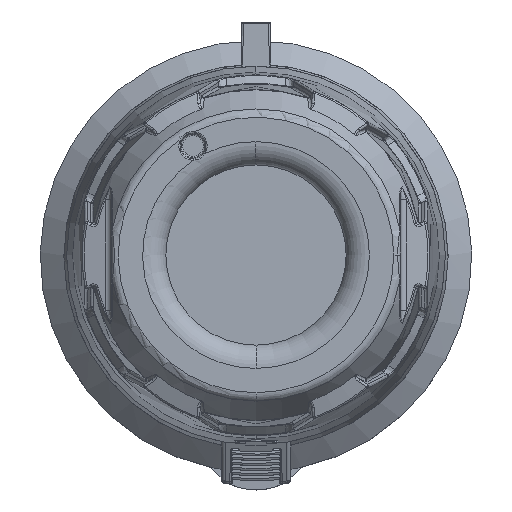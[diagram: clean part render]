
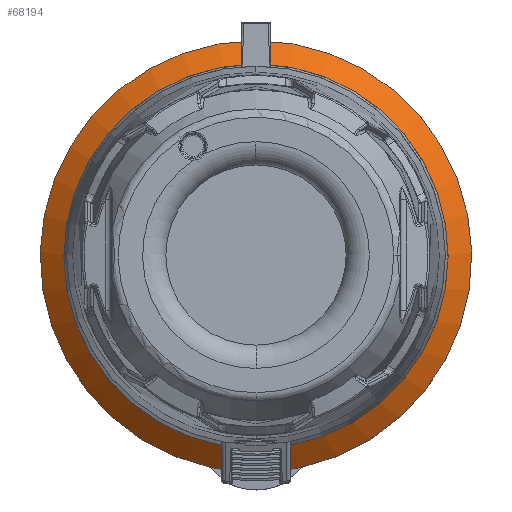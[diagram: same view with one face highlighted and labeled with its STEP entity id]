
A CAD part, top view. The second image highlights one B-rep face of the part: STEP entity #68194.
In plain terms, the highlighted conical face has half-angle 50 degrees and reference radius 42.25 mm.
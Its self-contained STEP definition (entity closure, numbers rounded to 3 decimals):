
#15839=CARTESIAN_POINT('',(0.,0.,15.312));
#15840=DIRECTION('',(0.,0.,1.));
#15841=DIRECTION('',(0.181,-0.984,0.));
#15842=AXIS2_PLACEMENT_3D('',#15839,#15840,#15841);
#16050=CARTESIAN_POINT('',(7.2,-44.116,11.2));
#16051=CARTESIAN_POINT('',(7.2,-43.541,11.677));
#16052=CARTESIAN_POINT('',(7.2,-42.405,12.617));
#16053=CARTESIAN_POINT('',(7.2,-40.748,13.987));
#16054=CARTESIAN_POINT('',(7.2,-39.673,14.874));
#16055=CARTESIAN_POINT('',(7.2,-39.143,15.312));
#16179=CARTESIAN_POINT('',(0.,0.,11.2));
#16180=DIRECTION('',(0.,0.,-1.));
#16181=DIRECTION('',(-0.161,-0.987,0.));
#16182=AXIS2_PLACEMENT_3D('',#16179,#16180,#16181);
#16187=CARTESIAN_POINT('',(0.,0.,11.2));
#16188=DIRECTION('',(0.,0.,-1.));
#16189=DIRECTION('',(0.211,-0.977,0.));
#16190=AXIS2_PLACEMENT_3D('',#16187,#16188,#16189);
#16209=CARTESIAN_POINT('',(-7.2,-39.143,15.312));
#16210=CARTESIAN_POINT('',(-7.2,-39.673,14.875));
#16211=CARTESIAN_POINT('',(-7.2,-40.747,13.988));
#16212=CARTESIAN_POINT('',(-7.2,-42.404,12.618));
#16213=CARTESIAN_POINT('',(-7.2,-43.54,11.677));
#16214=CARTESIAN_POINT('',(-7.2,-44.116,11.2));
#16273=CARTESIAN_POINT('',(0.,0.,11.2));
#16274=DIRECTION('',(0.,0.,1.));
#16275=DIRECTION('',(0.211,-0.977,0.));
#16276=AXIS2_PLACEMENT_3D('',#16273,#16274,#16275);
#50535=CARTESIAN_POINT('',(7.2,-39.143,15.312));
#50536=CARTESIAN_POINT('',(-7.2,-39.143,15.312));
#50537=VERTEX_POINT('',#50535);
#50538=VERTEX_POINT('',#50536);
#52628=VERTEX_POINT('',#16050);
#52629=CARTESIAN_POINT('',(9.442,-43.691,11.2));
#52630=CARTESIAN_POINT('',(-9.442,-43.691,11.2));
#52631=VERTEX_POINT('',#52629);
#52632=VERTEX_POINT('',#52630);
#52635=VERTEX_POINT('',#16214);
#68178=CARTESIAN_POINT('',(0.,0.,13.256));
#68179=DIRECTION('',(0.,0.,-1.));
#68180=DIRECTION('',(0.131,0.991,0.));
#68181=AXIS2_PLACEMENT_3D('',#68178,#68179,#68180);
#68182=CONICAL_SURFACE('1206',#68181,42.25,50.);
#68183=ORIENTED_EDGE('6774',*,*,#68045,.T.);
#68184=ORIENTED_EDGE('4651',*,*,#67952,.T.);
#68186=ORIENTED_EDGE('6777',*,*,#68185,.T.);
#68188=ORIENTED_EDGE('6983',*,*,#68187,.T.);
#68190=ORIENTED_EDGE('6775',*,*,#68189,.F.);
#68191=ORIENTED_EDGE('6984',*,*,#68165,.T.);
#68192=EDGE_LOOP('1206',(#68183,#68184,#68186,#68188,#68190,#68191));
#68193=FACE_OUTER_BOUND('1206',#68192,.F.);
#15843=CIRCLE('4651',#15842,39.8);
#16056=B_SPLINE_CURVE_WITH_KNOTS('6774',3,(#16050,#16051,#16052,#16053,#16054,
#16055),.UNSPECIFIED.,.F.,.F.,(4,1,1,4),(0.,0.333,
0.667,1.),.UNSPECIFIED.);
#16183=CIRCLE('6983',#16182,44.7);
#16191=CIRCLE('6984',#16190,44.7);
#16215=B_SPLINE_CURVE_WITH_KNOTS('6777',3,(#16209,#16210,#16211,#16212,#16213,
#16214),.UNSPECIFIED.,.F.,.F.,(4,1,1,4),(0.,0.333,
0.667,1.),.UNSPECIFIED.);
#16277=CIRCLE('6775',#16276,44.7);
#67952=EDGE_CURVE('4651',#50537,#50538,#15843,.T.);
#68045=EDGE_CURVE('6774',#52628,#50537,#16056,.T.);
#68165=EDGE_CURVE('6984',#52631,#52628,#16191,.T.);
#68185=EDGE_CURVE('6777',#50538,#52635,#16215,.T.);
#68187=EDGE_CURVE('6983',#52635,#52632,#16183,.T.);
#68189=EDGE_CURVE('6775',#52631,#52632,#16277,.T.);
#68194=ADVANCED_FACE('1206',(#68193),#68182,.T.);
